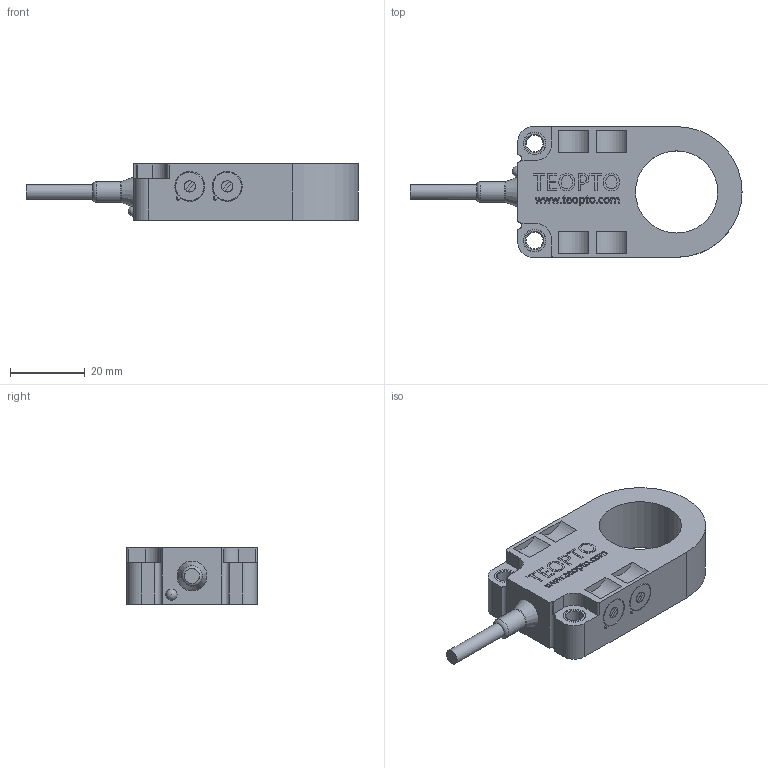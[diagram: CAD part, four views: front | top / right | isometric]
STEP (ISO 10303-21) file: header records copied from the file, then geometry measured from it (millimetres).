
FILE_DESCRIPTION(('STEP AP214'),'1');
FILE_NAME('L01AN22.stp','2017-02-20T12:17:10',(' '),(' '),'Spatial InterOp 3D',' ',' ');
FILE_SCHEMA(('automotive_design'));
Length unit declared in the file: millimetre
Products named in the file (3): 1; 2; 3
Bounding box: 88.84 x 35 x 15 mm (x, y, z)
Volume: 22911.9 mm3; surface area: 7816.5 mm2
Topology: 5 solids, 6 shells, 824 faces, 2303 edges, 1532 vertices
Faces by surface type: plane 770, cylinder 40, torus 8, cone 5, sphere 1
Full cylindrical faces by diameter (mm): 3 x4, 4 x1, 4.5 x2, 5.5 x2, 6 x2, 6.5 x1, 22 x1
Entity records: 32410 total; most frequent: CARTESIAN_POINT 4639, ORIENTED_EDGE 4542, DIRECTION 4008, EDGE_CURVE 2271, LINE 2176, VECTOR 2176, VERTEX_POINT 1523, AXIS2_PLACEMENT_3D 916
